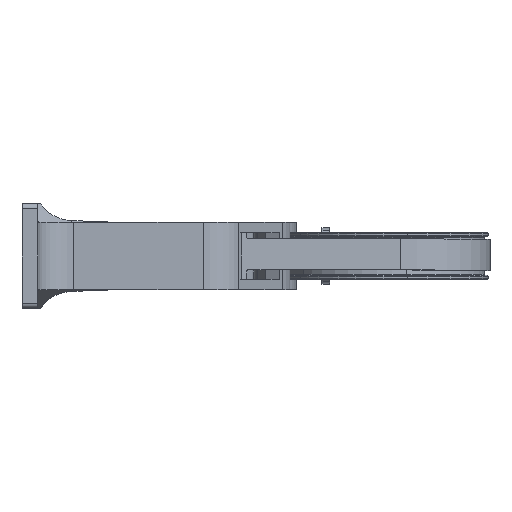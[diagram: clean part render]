
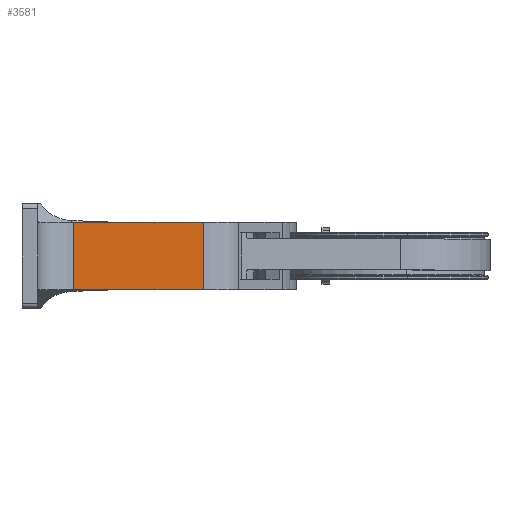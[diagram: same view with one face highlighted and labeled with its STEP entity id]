
A CAD part, front view. The second image highlights one B-rep face of the part: STEP entity #3581.
In plain terms, the highlighted planar face has unit normal (0, -1, 0) as drawn and (-1, 0, 0) by its records, which use the part's own axes.
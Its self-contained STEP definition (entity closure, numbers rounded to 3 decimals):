
#135=PLANE('',#3916);
#320=FACE_OUTER_BOUND('',#521,.T.);
#521=EDGE_LOOP('',(#2756,#2757,#2758,#2759));
#943=LINE('',#5964,#1249);
#976=LINE('',#6069,#1282);
#1032=LINE('',#6591,#1338);
#1037=LINE('',#6604,#1343);
#1249=VECTOR('',#4301,10.);
#1282=VECTOR('',#4386,10.);
#1338=VECTOR('',#4546,10.);
#1343=VECTOR('',#4559,10.);
#1591=VERTEX_POINT('',#5961);
#1592=VERTEX_POINT('',#5963);
#1637=VERTEX_POINT('',#6066);
#1638=VERTEX_POINT('',#6068);
#1958=EDGE_CURVE('',#1592,#1591,#943,.T.);
#2010=EDGE_CURVE('',#1638,#1637,#976,.T.);
#2099=EDGE_CURVE('',#1638,#1591,#1032,.T.);
#2106=EDGE_CURVE('',#1637,#1592,#1037,.T.);
#2756=ORIENTED_EDGE('',*,*,#2010,.T.);
#2757=ORIENTED_EDGE('',*,*,#2106,.T.);
#2758=ORIENTED_EDGE('',*,*,#1958,.T.);
#2759=ORIENTED_EDGE('',*,*,#2099,.F.);
#3581=ADVANCED_FACE('',(#320),#135,.T.);
#3916=AXIS2_PLACEMENT_3D('',#6603,#4557,#4558);
#4301=DIRECTION('',(0.,1.,0.));
#4386=DIRECTION('',(0.,-1.,0.));
#4546=DIRECTION('',(0.,0.,1.));
#4557=DIRECTION('center_axis',(-1.,0.,0.));
#4558=DIRECTION('ref_axis',(0.,-1.,0.));
#4559=DIRECTION('',(0.,0.,1.));
#5961=CARTESIAN_POINT('',(-84.914,25.023,6.5));
#5963=CARTESIAN_POINT('',(-84.914,0.,6.5));
#5964=CARTESIAN_POINT('',(-84.914,12.511,6.5));
#6066=CARTESIAN_POINT('',(-84.914,0.,-6.5));
#6068=CARTESIAN_POINT('',(-84.914,25.023,-6.5));
#6069=CARTESIAN_POINT('',(-84.914,12.511,-6.5));
#6591=CARTESIAN_POINT('',(-84.914,25.023,0.));
#6603=CARTESIAN_POINT('Origin',(-84.914,25.023,0.));
#6604=CARTESIAN_POINT('',(-84.914,0.,0.));
